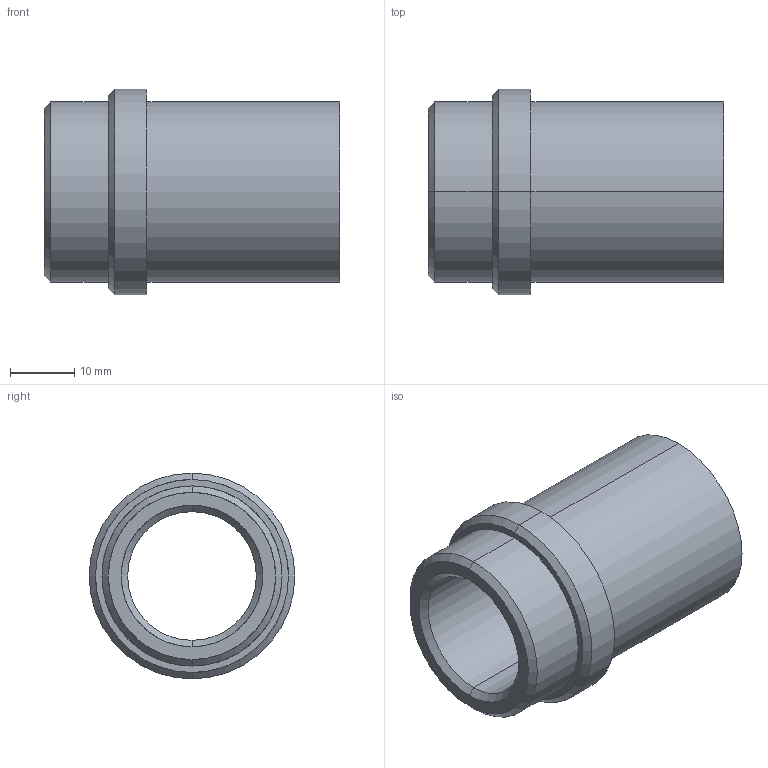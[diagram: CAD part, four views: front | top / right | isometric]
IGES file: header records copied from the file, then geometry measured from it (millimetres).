
Start section: START RECORD GO HERE.
Global section: file name: 358-20x46.igs; native system: DASSAULT SYSTEMES CATIA V5 R20 - www.3ds.com; preprocessor: CATIA Version 5 Release 20 ; author: Utente; organization: NB04-ASUS; date: 20210408.144707; units: millimetre
Bounding box: 46 x 32 x 32 mm (x, y, z)
Surface area: 7791.5 mm2 (no closed solid volume)
Topology: 0 solids, 0 shells, 20 faces, 128 edges, 128 vertices
Faces by surface type: revolution 16, plane 4
